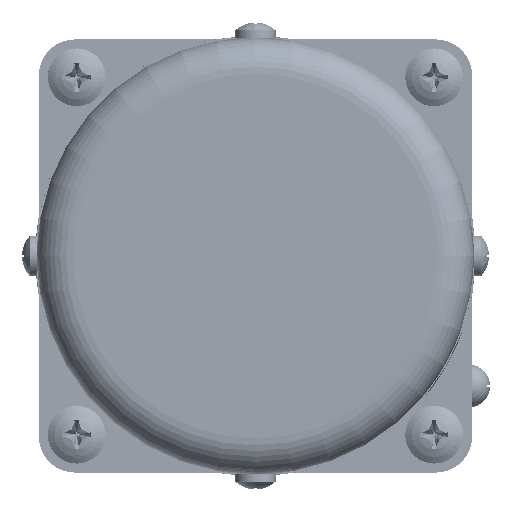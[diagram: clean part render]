
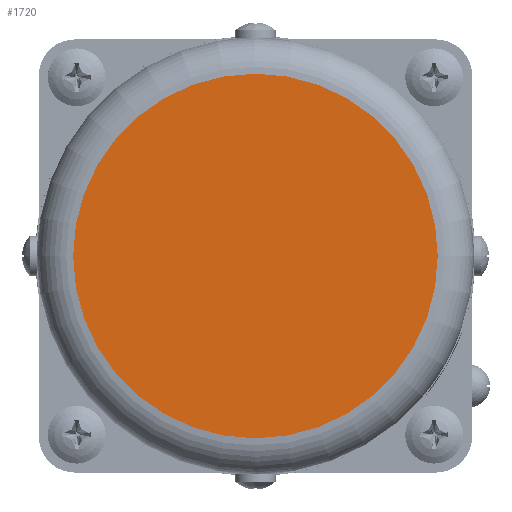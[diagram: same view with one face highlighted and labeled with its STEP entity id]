
A CAD part, left-side view. The second image highlights one B-rep face of the part: STEP entity #1720.
In plain terms, the highlighted planar face has unit normal (-1, 0, 0).
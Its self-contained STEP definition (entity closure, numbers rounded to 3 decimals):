
#1122=FACE_OUTER_BOUND('',#2697,.T.);
#1333=PLANE('',#6644);
#1720=ADVANCED_FACE('',(#1122),#1333,.T.);
#2697=EDGE_LOOP('',(#3859));
#3859=ORIENTED_EDGE('',*,*,#5588,.T.);
#4867=VERTEX_POINT('',#61696);
#5588=EDGE_CURVE('',#4867,#4867,#6145,.T.);
#6145=CIRCLE('',#6643,25.25);
#6643=AXIS2_PLACEMENT_3D('',#61695,#7619,#7620);
#6644=AXIS2_PLACEMENT_3D('',#61697,#7621,#7622);
#7619=DIRECTION('',(-1.,0.,0.));
#7620=DIRECTION('',(0.,-1.,0.));
#7621=DIRECTION('',(-1.,0.,0.));
#7622=DIRECTION('',(0.,-1.,0.));
#61695=CARTESIAN_POINT('',(-111.,0.,0.));
#61696=CARTESIAN_POINT('',(-111.,-25.25,0.));
#61697=CARTESIAN_POINT('',(-111.,0.,0.));
